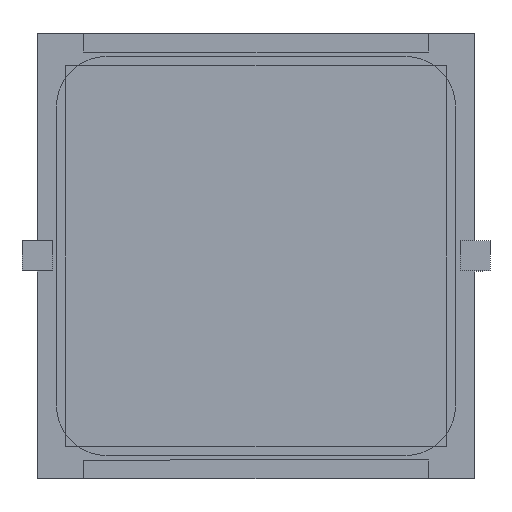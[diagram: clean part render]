
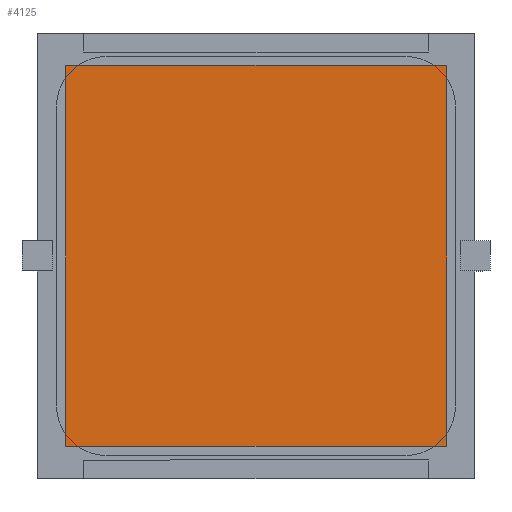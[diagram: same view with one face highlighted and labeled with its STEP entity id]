
A CAD part, front view. The second image highlights one B-rep face of the part: STEP entity #4125.
In plain terms, the highlighted planar face has unit normal (0, -1, 0).
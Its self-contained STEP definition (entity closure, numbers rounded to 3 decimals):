
#296 = LINE ( 'NONE', #4590, #5832 ) ;
#330 = ORIENTED_EDGE ( 'NONE', *, *, #1708, .F. ) ;
#400 = VECTOR ( 'NONE', #447, 1000. ) ;
#442 = DIRECTION ( 'NONE',  ( -1., 0., 0. ) ) ;
#447 = DIRECTION ( 'NONE',  ( 1., 0., 0. ) ) ;
#488 = DIRECTION ( 'NONE',  ( 0., 0., 1. ) ) ;
#620 = CARTESIAN_POINT ( 'NONE',  ( -12.7, -0.127, -12.7 ) ) ;
#904 = FACE_OUTER_BOUND ( 'NONE', #3179, .T. ) ;
#955 = CARTESIAN_POINT ( 'NONE',  ( 12.7, -0.127, 12.7 ) ) ;
#1541 = ORIENTED_EDGE ( 'NONE', *, *, #5995, .F. ) ;
#1708 = EDGE_CURVE ( 'NONE', #5075, #7033, #296, .T. ) ;
#1756 = LINE ( 'NONE', #6090, #400 ) ;
#1889 = DIRECTION ( 'NONE',  ( 0., 0., 1. ) ) ;
#2020 = VERTEX_POINT ( 'NONE', #620 ) ;
#2055 = VECTOR ( 'NONE', #442, 1000. ) ;
#2247 = LINE ( 'NONE', #4427, #3067 ) ;
#2505 = DIRECTION ( 'NONE',  ( 0., 1., 0. ) ) ;
#2591 = CARTESIAN_POINT ( 'NONE',  ( -12.7, -0.127, 12.7 ) ) ;
#3067 = VECTOR ( 'NONE', #488, 1000. ) ;
#3179 = EDGE_LOOP ( 'NONE', ( #4012, #3480, #330, #1541 ) ) ;
#3186 = CARTESIAN_POINT ( 'NONE',  ( -12.7, -0.127, -12.7 ) ) ;
#3480 = ORIENTED_EDGE ( 'NONE', *, *, #4533, .F. ) ;
#4012 = ORIENTED_EDGE ( 'NONE', *, *, #6756, .F. ) ;
#4125 = ADVANCED_FACE ( 'NONE', ( #904 ), #4730, .F. ) ;
#4178 = CARTESIAN_POINT ( 'NONE',  ( -12.7, -0.127, 12.7 ) ) ;
#4427 = CARTESIAN_POINT ( 'NONE',  ( -12.7, -0.127, -12.7 ) ) ;
#4533 = EDGE_CURVE ( 'NONE', #7033, #2020, #4877, .T. ) ;
#4590 = CARTESIAN_POINT ( 'NONE',  ( 12.7, -0.127, -12.7 ) ) ;
#4730 = PLANE ( 'NONE',  #6251 ) ;
#4877 = LINE ( 'NONE', #3186, #2055 ) ;
#5075 = VERTEX_POINT ( 'NONE', #955 ) ;
#5191 = DIRECTION ( 'NONE',  ( 0., 0., -1. ) ) ;
#5750 = CARTESIAN_POINT ( 'NONE',  ( 12.7, -0.127, -12.7 ) ) ;
#5832 = VECTOR ( 'NONE', #5191, 1000. ) ;
#5995 = EDGE_CURVE ( 'NONE', #6698, #5075, #1756, .T. ) ;
#6090 = CARTESIAN_POINT ( 'NONE',  ( -12.7, -0.127, 12.7 ) ) ;
#6251 = AXIS2_PLACEMENT_3D ( 'NONE', #4178, #2505, #1889 ) ;
#6698 = VERTEX_POINT ( 'NONE', #2591 ) ;
#6756 = EDGE_CURVE ( 'NONE', #2020, #6698, #2247, .T. ) ;
#7033 = VERTEX_POINT ( 'NONE', #5750 ) ;
